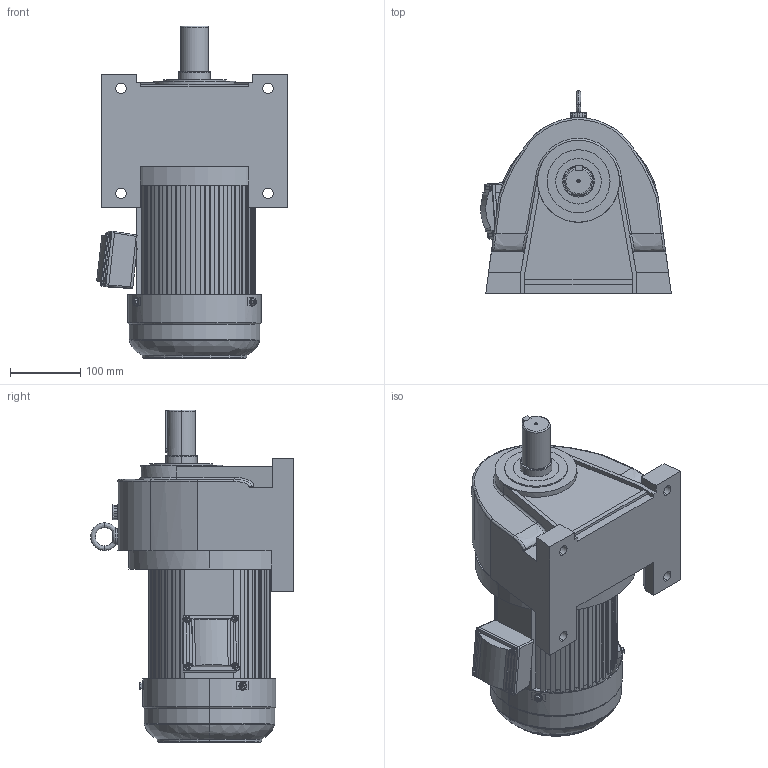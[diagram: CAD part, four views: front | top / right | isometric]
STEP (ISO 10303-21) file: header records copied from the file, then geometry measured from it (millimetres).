
FILE_DESCRIPTION (( 'STEP AP214' ), '1' );
FILE_NAME ('CH40-1500W去字改颜色.STEP', '2024-01-09T05:44:39', ( '微软用户' ), ( '微软中国' ), 'SwSTEP 2.0', 'SolidWorks 2014', '' );
FILE_SCHEMA (( 'AUTOMOTIVE_DESIGN' ));
Length unit declared in the file: millimetre
Products named in the file (9): 諉盄碟蹟佪; 奻裔(臏ㄘ; 菁碟ㄗ臏ㄘ; 瑞珔欶蹟佪; 190瑞珔欶; 160綴裔; 1500W萇儂俋褲; CH40; CH40-1500W去字改颜色
Assembly tree (13 placements, depth 2):
  CH40-1500W去字改颜色
    CH40
    1500W萇儂俋褲
    160綴裔
    190瑞珔欶
    瑞珔欶蹟佪  x3
    菁碟ㄗ臏ㄘ
    奻裔(臏ㄘ
    諉盄碟蹟佪  x4
Bounding box: 272.16 x 289.83 x 474.19 mm (x, y, z)
Volume: 7903736 mm3; surface area: 819357.3 mm2
Topology: 17 solids, 17 shells, 2012 faces, 5596 edges, 3673 vertices
Faces by surface type: cylinder 909, plane 889, bspline 150, cone 64
Entity records: 87026 total; most frequent: CARTESIAN_POINT 42054, ORIENTED_EDGE 9642, DIRECTION 8920, EDGE_CURVE 4821, VERTEX_POINT 3166, AXIS2_PLACEMENT_3D 2999, LINE 2922, VECTOR 2922
